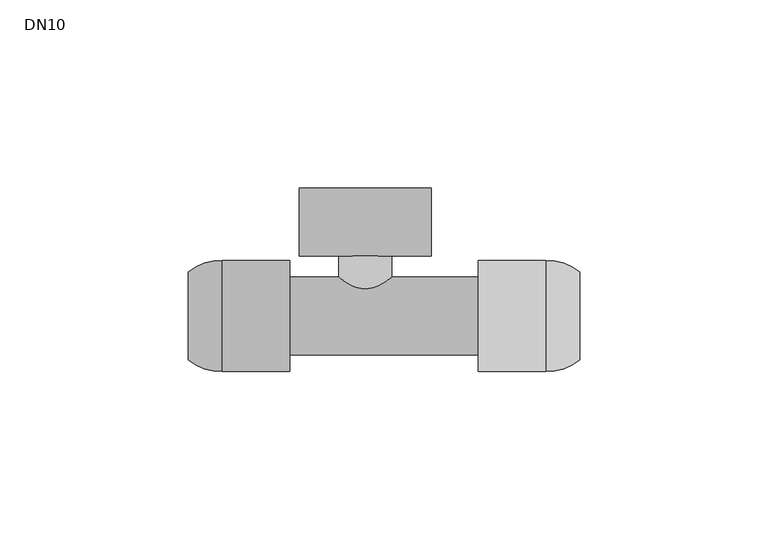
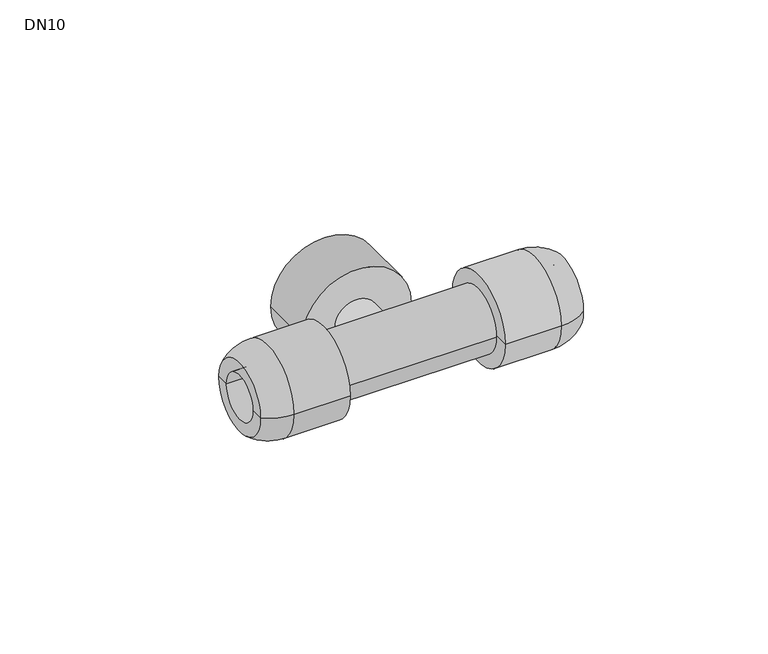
"""IFC4 building model written with IfcOpenShell, lengths in millimetres: valve geometry, Wavin_PipeAccessory_Hep2oShutOffValve : DN10."""

from ifc_helpers import new_model, si_unit, point, frame, origin, origin_2d, place, context, project, spatial, polyline, circle_curve, ellipse_curve, trimmed, segment, composite_curve, outline, extrude, source, transform, mapped, element, save
from ifc_brep_helpers import plane_surface, cylinder_surface, revolved_surface, advanced_brep


def dn10_6025dd98(model_context):
    return source(origin(), model_context, "Body", "SolidModel", [
        advanced_brep(
        [(30.0, 7.5, 0.0), (30.0, -7.5, 0.0), (57.0, -7.5, 0.0), (57.0, 7.5, 0.0), (30.0, 14.8, 0.0), (30.0, -14.8, 0.0), (48.0, 14.8, 0.0), (48.0, -14.8, 0.0), (57.0, 11.7490425, 0.0), (57.0, -11.7490425, 0.0)],
        [
            (0, 1, circle_curve(frame((30.0, 0.0, 0.0), z_axis=(-1.0, 0.0, 0.0), x_axis=(0.0, -1.0000000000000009, 0.0)), 7.5)),
            (1, 2),
            (2, 3, circle_curve(frame((57.0, 0.0, 0.0), z_axis=(1.0, 0.0, 0.0), x_axis=(0.0, -1.0000000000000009, 0.0)), 7.5)),
            (3, 0),
            (1, 0, circle_curve(frame((30.0, 0.0, 0.0), z_axis=(-1.0, 0.0, 0.0), x_axis=(0.0, -1.0000000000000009, 0.0)), 7.5)),
            (3, 2, circle_curve(frame((57.0, 0.0, 0.0), z_axis=(1.0, 0.0, 0.0), x_axis=(0.0, -1.0000000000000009, 0.0)), 7.5)),
            (4, 5, circle_curve(frame((30.0, 0.0, 0.0), z_axis=(-1.0, 0.0, 0.0), x_axis=(0.0, -1.0000000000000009, 0.0)), 14.8)),
            (5, 1),
            (0, 4),
            (5, 4, circle_curve(frame((30.0, 0.0, 0.0), z_axis=(-1.0, 0.0, 0.0), x_axis=(0.0, -1.0000000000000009, 0.0)), 14.8)),
            (6, 7, circle_curve(frame((48.0, 0.0, 0.0), z_axis=(-1.0, 0.0, 0.0), x_axis=(0.0, -1.0000000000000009, 0.0)), 14.8)),
            (7, 5),
            (4, 6),
            (7, 6, circle_curve(frame((48.0, 0.0, 0.0), z_axis=(-1.0, 0.0, 0.0), x_axis=(0.0, -1.0000000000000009, 0.0)), 14.8)),
            (8, 9, circle_curve(frame((57.0, 0.0, 0.0), z_axis=(-1.0, 0.0, 0.0), x_axis=(0.0, -1.0000000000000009, 0.0)), 11.7490425)),
            (9, 7, circle_curve(frame((48.0, 0.0, 0.0), z_axis=(0.0, 0.0, -1.0000000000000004), x_axis=(-1.0000000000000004, 0.0, 0.0)), 14.8)),
            (6, 8, circle_curve(frame((48.0, 0.0, 0.0), z_axis=(0.0, 0.0, -1.0000000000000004), x_axis=(-1.0000000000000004, 0.0, 0.0)), 14.8)),
            (9, 8, circle_curve(frame((57.0, 0.0, 0.0), z_axis=(-1.0, 0.0, 0.0), x_axis=(0.0, -1.0000000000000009, 0.0)), 11.7490425)),
            (2, 9),
            (8, 3),
        ],
        [
            revolved_surface(polyline([(57.00000000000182, -7.500000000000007, 0.0), (30.00000000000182, -7.500000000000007, 0.0)]), (-1970.0, 0.0, 0.0), (1.0000000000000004, 0.0, 0.0)),
            plane_surface(frame((30.0, 0.0, 0.0), z_axis=(-1.0, 0.0, 0.0), x_axis=(0.0, -1.0, 0.0))),
            cylinder_surface(frame((-1970.0, 0.0, 0.0), z_axis=(1.0000000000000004, 0.0, 0.0), x_axis=(0.0, -1.0000000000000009, 0.0)), 14.8),
            revolved_surface(trimmed(ellipse_curve(frame((48.0, 0.0, 0.0), z_axis=(0.0, 0.0, 1.0000000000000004), x_axis=(-1.0000000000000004, 0.0, 0.0)), 14.8, 14.8), [point((48.0, -14.8, 0.0))], [point((57.0, -11.7490425, 0.0))], True, "CARTESIAN"), (-1970.0, 0.0, 0.0), (1.0000000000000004, 0.0, 0.0)),
            plane_surface(frame((57.0, 0.0, 0.0), z_axis=(1.0, 0.0, 0.0), x_axis=(0.0, -1.0, 0.0))),
        ],
        [
            (0, [[1, 2, 3, 4]]),
            (0, [[5, -4, 6, -2]]),
            (1, [[7, 8, -1, 9]]),
            (1, [[10, -9, -5, -8]]),
            (2, [[11, 12, -7, 13]]),
            (2, [[14, -13, -10, -12]]),
            (3, [[15, 16, -11, 17]]),
            (3, [[18, -17, -14, -16]]),
            (4, [[-3, 19, -15, 20]]),
            (4, [[-6, -20, -18, -19]]),
        ],
    ),
        advanced_brep(
        [(-20.0, -7.5, 0.0), (-20.0, 7.5, 0.0), (-47.0, 7.5, 0.0), (-47.0, -7.5, 0.0), (-20.0, -14.8, 0.0), (-20.0, 14.8, 0.0), (-38.0, -14.8, 0.0), (-38.0, 14.8, 0.0), (-47.0, -11.7490425, 0.0), (-47.0, 11.7490425, 0.0)],
        [
            (0, 1, circle_curve(frame((-20.0, 0.0, 0.0), z_axis=(1.0, 0.0, 0.0), x_axis=(0.0, 1.0, 0.0)), 7.5)),
            (1, 2),
            (2, 3, circle_curve(frame((-47.0, 0.0, 0.0), z_axis=(-1.0, 0.0, 0.0), x_axis=(0.0, 1.0, 0.0)), 7.5)),
            (3, 0),
            (1, 0, circle_curve(frame((-20.0, 0.0, 0.0), z_axis=(1.0, 0.0, 0.0), x_axis=(0.0, 1.0, 0.0)), 7.5)),
            (3, 2, circle_curve(frame((-47.0, 0.0, 0.0), z_axis=(-1.0, 0.0, 0.0), x_axis=(0.0, 1.0, 0.0)), 7.5)),
            (4, 5, circle_curve(frame((-20.0, 0.0, 0.0), z_axis=(1.0, 0.0, 0.0), x_axis=(0.0, 1.0, 0.0)), 14.8)),
            (5, 1),
            (0, 4),
            (5, 4, circle_curve(frame((-20.0, 0.0, 0.0), z_axis=(1.0, 0.0, 0.0), x_axis=(0.0, 1.0, 0.0)), 14.8)),
            (6, 7, circle_curve(frame((-38.0, 0.0, 0.0), z_axis=(1.0, 0.0, 0.0), x_axis=(0.0, 1.0, 0.0)), 14.8)),
            (7, 5),
            (4, 6),
            (7, 6, circle_curve(frame((-38.0, 0.0, 0.0), z_axis=(1.0, 0.0, 0.0), x_axis=(0.0, 1.0, 0.0)), 14.8)),
            (8, 9, circle_curve(frame((-47.0, 0.0, 0.0), z_axis=(1.0, 0.0, 0.0), x_axis=(0.0, 1.0, 0.0)), 11.7490425)),
            (9, 7, circle_curve(frame((-38.0, 0.0, 0.0), z_axis=(0.0, 0.0, -1.0), x_axis=(1.0, 0.0, 0.0)), 14.8)),
            (6, 8, circle_curve(frame((-38.0, 0.0, 0.0), z_axis=(0.0, 0.0, -1.0), x_axis=(1.0, 0.0, 0.0)), 14.8)),
            (9, 8, circle_curve(frame((-47.0, 0.0, 0.0), z_axis=(1.0, 0.0, 0.0), x_axis=(0.0, 1.0, 0.0)), 11.7490425)),
            (2, 9),
            (8, 3),
        ],
        [
            revolved_surface(polyline([(-47.0, 7.5, 0.0), (-20.0, 7.5, 0.0)]), (1980.0, 0.0, 0.0), (-1.0, 0.0, 0.0)),
            plane_surface(frame((-20.0, 0.0, 0.0), z_axis=(1.0, 0.0, 0.0), x_axis=(0.0, 1.0, 0.0))),
            cylinder_surface(frame((1980.0, 0.0, 0.0), z_axis=(-1.0, 0.0, 0.0), x_axis=(0.0, 1.0, 0.0)), 14.8),
            revolved_surface(trimmed(ellipse_curve(frame((-38.0, 0.0, 0.0), z_axis=(0.0, 0.0, 1.0), x_axis=(1.0, 0.0, 0.0)), 14.8, 14.8), [point((-38.0, 14.8, 0.0))], [point((-47.0, 11.7490425, 0.0))], True, "CARTESIAN"), (1980.0, 0.0, 0.0), (-1.0, 0.0, 0.0)),
            plane_surface(frame((-47.0, 0.0, 0.0), z_axis=(-1.0, 0.0, 0.0), x_axis=(0.0, 1.0, 0.0))),
        ],
        [
            (0, [[1, 2, 3, 4]]),
            (0, [[5, -4, 6, -2]]),
            (1, [[7, 8, -1, 9]]),
            (1, [[10, -9, -5, -8]]),
            (2, [[11, 12, -7, 13]]),
            (2, [[14, -13, -10, -12]]),
            (3, [[15, 16, -11, 17]]),
            (3, [[18, -17, -14, -16]]),
            (4, [[-3, 19, -15, 20]]),
            (4, [[-6, -20, -18, -19]]),
        ],
    ),
        extrude(outline(composite_curve([segment(trimmed(circle_curve(origin_2d(), 7.0), [point((0.0, -7.0))], [point((0.0, 7.0))], False, "CARTESIAN"), True, "CONTINUOUS"), segment(trimmed(circle_curve(origin_2d(), 7.0), [point((0.0, 7.0))], [point((0.0, -7.0))], False, "CARTESIAN"), True, "CONTINUOUS")], self_intersect=False)), frame((0.0, 0.0, 0.0), z_axis=(0.0, 1.0, 0.0), x_axis=(0.0, 0.0, 1.0)), (0.0, 0.0, 1.0), 34.0),
        extrude(outline(composite_curve([segment(trimmed(circle_curve(origin_2d(), 17.5), [point((0.0, -17.5))], [point((0.0, 17.5))], False, "CARTESIAN"), True, "CONTINUOUS"), segment(trimmed(circle_curve(origin_2d(), 17.5), [point((0.0, 17.5))], [point((0.0, -17.5))], False, "CARTESIAN"), True, "CONTINUOUS")], self_intersect=False)), frame((0.0, 16.0, 0.0), z_axis=(0.0, 1.0, 0.0), x_axis=(0.0, 0.0, 1.0)), (0.0, 0.0, 1.0), 18.0),
        advanced_brep(
        [(-20.0, 0.0, 0.0), (-20.0, 10.4, 0.0), (-20.0, -10.4, 0.0), (30.0, -10.4, 0.0), (30.0, 10.4, 0.0), (30.0, 0.0, 0.0)],
        [
            (0, 1),
            (1, 2, circle_curve(frame((-20.0, 0.0, 0.0), z_axis=(-1.0, 0.0, 0.0), x_axis=(0.0, 1.0, 0.0)), 10.4)),
            (2, 0),
            (2, 1, circle_curve(frame((-20.0, 0.0, 0.0), z_axis=(-1.0, 0.0, 0.0), x_axis=(0.0, 1.0, 0.0)), 10.4)),
            (3, 4, circle_curve(frame((30.0, 0.0, 0.0), z_axis=(1.0, 0.0, 0.0), x_axis=(0.0, 1.0, 0.0)), 10.4)),
            (4, 5),
            (5, 3),
            (4, 3, circle_curve(frame((30.0, 0.0, 0.0), z_axis=(1.0, 0.0, 0.0), x_axis=(0.0, 1.0, 0.0)), 10.4)),
            (1, 4),
            (3, 2),
        ],
        [
            plane_surface(frame((-20.0, 0.0, 0.0), z_axis=(-1.0, 0.0, 0.0), x_axis=(0.0, 1.0, 0.0))),
            plane_surface(frame((30.0, 0.0, 0.0), z_axis=(1.0, 0.0, 0.0), x_axis=(0.0, 1.0, 0.0))),
            cylinder_surface(frame((-20.0, 0.0, 0.0), z_axis=(-1.0, 0.0, 0.0), x_axis=(0.0, 1.0, 0.0)), 10.4),
        ],
        [
            (0, [[1, 2, 3]]),
            (0, [[-3, 4, -1]]),
            (1, [[5, 6, 7]]),
            (1, [[8, -7, -6]]),
            (2, [[-2, 9, -5, 10]]),
            (2, [[-4, -10, -8, -9]]),
        ],
    ),
    ])


if __name__ == "__main__":
    model = new_model("IFC4")
    model_context = context("Model", 3, world=origin())
    ifc_project = project(units=[si_unit("LENGTHUNIT", "METRE", prefix="MILLI")], contexts=[model_context])
    site = spatial("IfcSite", under=ifc_project)
    building = spatial("IfcBuilding", under=site)
    placement = place(None, origin())
    dn10_shape = dn10_6025dd98(model_context)
    element("IfcValve", 1, ObjectType="Wavin_PipeAccessory_Hep2oShutOffValve : DN10", at=placement, inside=building, context=model_context, shape_type="MappedRepresentation", body=[
        mapped(dn10_shape, transform((0.0, 0.0, 0.0), x_axis=(1.0, 0.0, 0.0), y_axis=(0.0, 1.0, 0.0), z_axis=(0.0, 0.0, 1.0))),
    ])
    save(model, "model.ifc")
